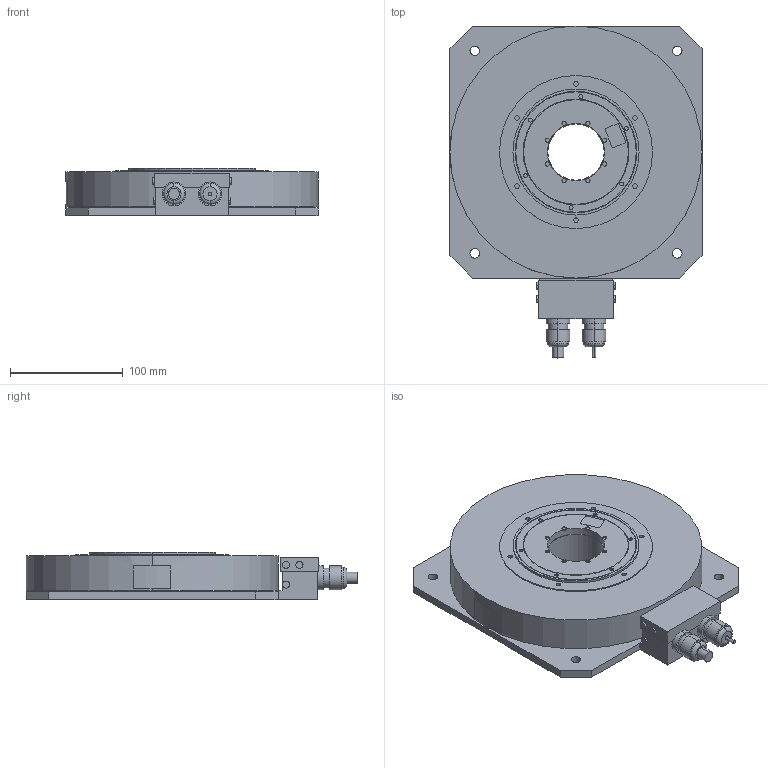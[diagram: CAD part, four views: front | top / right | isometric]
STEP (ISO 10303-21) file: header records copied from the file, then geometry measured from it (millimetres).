
FILE_DESCRIPTION (( 'STEP AP203' ), '1' );
FILE_NAME ('sgm7d_06l_c41.STEP', '2016-02-23T02:44:33', ( '' ), ( '' ), 'SwSTEP 2.0', 'SolidWorks 2010', '' );
FILE_SCHEMA (( 'CONFIG_CONTROL_DESIGN' ));
Length unit declared in the file: millimetre
Products named in the file (1): sgm7d_06l_c41
Bounding box: 224 x 295 x 42.1 mm (x, y, z)
Volume: 1631034.4 mm3; surface area: 156249.9 mm2
Topology: 1 solids, 1 shells, 297 faces, 672 edges, 444 vertices
Faces by surface type: cylinder 168, plane 125, torus 4
Entity records: 8559 total; most frequent: DIRECTION 1620, CARTESIAN_POINT 1414, ORIENTED_EDGE 1344, EDGE_CURVE 672, AXIS2_PLACEMENT_3D 650, VERTEX_POINT 444, EDGE_LOOP 374, CIRCLE 352
